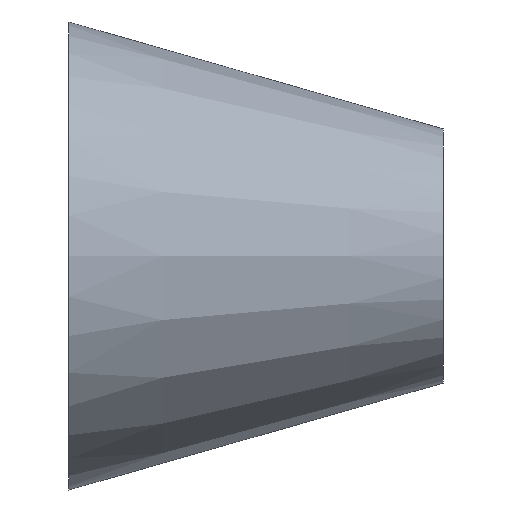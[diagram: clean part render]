
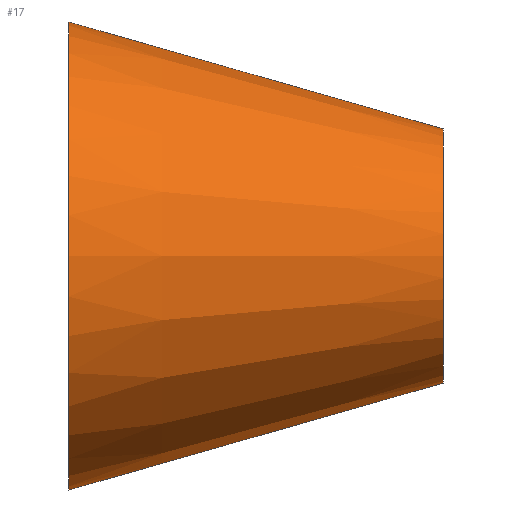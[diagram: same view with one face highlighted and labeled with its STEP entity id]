
A CAD part, front view. The second image highlights one B-rep face of the part: STEP entity #17.
In plain terms, the highlighted conical face has half-angle 15.945 degrees and reference radius 17.5 mm.
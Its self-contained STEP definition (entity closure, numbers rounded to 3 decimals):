
#17 = ADVANCED_FACE('',(#18),#31,.T.);
#18 = FACE_BOUND('',#19,.T.);
#19 = EDGE_LOOP('',(#20,#54,#74,#101));
#20 = ORIENTED_EDGE('',*,*,#21,.T.);
#21 = EDGE_CURVE('',#22,#22,#24,.T.);
#22 = VERTEX_POINT('',#23);
#23 = CARTESIAN_POINT('',(0.,17.5,0.));
#24 = SURFACE_CURVE('',#25,(#30,#42),.PCURVE_S1.);
#25 = CIRCLE('',#26,17.5);
#26 = AXIS2_PLACEMENT_3D('',#27,#28,#29);
#27 = CARTESIAN_POINT('',(0.,0.,0.));
#28 = DIRECTION('',(1.,0.,0.));
#29 = DIRECTION('',(0.,1.,0.));
#30 = PCURVE('',#31,#36);
#31 = CONICAL_SURFACE('',#32,17.5,0.278);
#32 = AXIS2_PLACEMENT_3D('',#33,#34,#35);
#33 = CARTESIAN_POINT('',(0.,0.,0.));
#34 = DIRECTION('',(-1.,-0.,-0.));
#35 = DIRECTION('',(0.,1.,0.));
#36 = DEFINITIONAL_REPRESENTATION('',(#37),#41);
#37 = LINE('',#38,#39);
#38 = CARTESIAN_POINT('',(-0.,-0.));
#39 = VECTOR('',#40,1.);
#40 = DIRECTION('',(-1.,-0.));
#41 = ( GEOMETRIC_REPRESENTATION_CONTEXT(2) 
PARAMETRIC_REPRESENTATION_CONTEXT() REPRESENTATION_CONTEXT('2D SPACE',''
  ) );
#42 = PCURVE('',#43,#48);
#43 = PLANE('',#44);
#44 = AXIS2_PLACEMENT_3D('',#45,#46,#47);
#45 = CARTESIAN_POINT('',(0.,0.,0.));
#46 = DIRECTION('',(1.,0.,0.));
#47 = DIRECTION('',(0.,1.,0.));
#48 = DEFINITIONAL_REPRESENTATION('',(#49),#53);
#49 = CIRCLE('',#50,17.5);
#50 = AXIS2_PLACEMENT_2D('',#51,#52);
#51 = CARTESIAN_POINT('',(0.,0.));
#52 = DIRECTION('',(1.,0.));
#53 = ( GEOMETRIC_REPRESENTATION_CONTEXT(2) 
PARAMETRIC_REPRESENTATION_CONTEXT() REPRESENTATION_CONTEXT('2D SPACE',''
  ) );
#54 = ORIENTED_EDGE('',*,*,#55,.T.);
#55 = EDGE_CURVE('',#22,#56,#58,.T.);
#56 = VERTEX_POINT('',#57);
#57 = CARTESIAN_POINT('',(28.,9.5,0.));
#58 = SEAM_CURVE('',#59,(#62,#68),.PCURVE_S1.);
#59 = B_SPLINE_CURVE_WITH_KNOTS('',1,(#60,#61),.UNSPECIFIED.,.F.,.F.,(2,
    2),(0.,1.),.PIECEWISE_BEZIER_KNOTS.);
#60 = CARTESIAN_POINT('',(0.,17.5,0.));
#61 = CARTESIAN_POINT('',(28.,9.5,0.));
#62 = PCURVE('',#31,#63);
#63 = DEFINITIONAL_REPRESENTATION('',(#64),#67);
#64 = B_SPLINE_CURVE_WITH_KNOTS('',1,(#65,#66),.UNSPECIFIED.,.F.,.F.,(2,
    2),(0.,1.),.PIECEWISE_BEZIER_KNOTS.);
#65 = CARTESIAN_POINT('',(-6.283,0.));
#66 = CARTESIAN_POINT('',(-6.283,-28.));
#67 = ( GEOMETRIC_REPRESENTATION_CONTEXT(2) 
PARAMETRIC_REPRESENTATION_CONTEXT() REPRESENTATION_CONTEXT('2D SPACE',''
  ) );
#68 = PCURVE('',#31,#69);
#69 = DEFINITIONAL_REPRESENTATION('',(#70),#73);
#70 = B_SPLINE_CURVE_WITH_KNOTS('',1,(#71,#72),.UNSPECIFIED.,.F.,.F.,(2,
    2),(0.,1.),.PIECEWISE_BEZIER_KNOTS.);
#71 = CARTESIAN_POINT('',(0.,0.));
#72 = CARTESIAN_POINT('',(0.,-28.));
#73 = ( GEOMETRIC_REPRESENTATION_CONTEXT(2) 
PARAMETRIC_REPRESENTATION_CONTEXT() REPRESENTATION_CONTEXT('2D SPACE',''
  ) );
#74 = ORIENTED_EDGE('',*,*,#75,.F.);
#75 = EDGE_CURVE('',#56,#56,#76,.T.);
#76 = SURFACE_CURVE('',#77,(#82,#89),.PCURVE_S1.);
#77 = CIRCLE('',#78,9.5);
#78 = AXIS2_PLACEMENT_3D('',#79,#80,#81);
#79 = CARTESIAN_POINT('',(28.,0.,0.));
#80 = DIRECTION('',(1.,0.,0.));
#81 = DIRECTION('',(0.,1.,0.));
#82 = PCURVE('',#31,#83);
#83 = DEFINITIONAL_REPRESENTATION('',(#84),#88);
#84 = LINE('',#85,#86);
#85 = CARTESIAN_POINT('',(-0.,-28.));
#86 = VECTOR('',#87,1.);
#87 = DIRECTION('',(-1.,-0.));
#88 = ( GEOMETRIC_REPRESENTATION_CONTEXT(2) 
PARAMETRIC_REPRESENTATION_CONTEXT() REPRESENTATION_CONTEXT('2D SPACE',''
  ) );
#89 = PCURVE('',#90,#95);
#90 = PLANE('',#91);
#91 = AXIS2_PLACEMENT_3D('',#92,#93,#94);
#92 = CARTESIAN_POINT('',(28.,0.,0.));
#93 = DIRECTION('',(1.,0.,0.));
#94 = DIRECTION('',(0.,1.,0.));
#95 = DEFINITIONAL_REPRESENTATION('',(#96),#100);
#96 = CIRCLE('',#97,9.5);
#97 = AXIS2_PLACEMENT_2D('',#98,#99);
#98 = CARTESIAN_POINT('',(0.,0.));
#99 = DIRECTION('',(1.,0.));
#100 = ( GEOMETRIC_REPRESENTATION_CONTEXT(2) 
PARAMETRIC_REPRESENTATION_CONTEXT() REPRESENTATION_CONTEXT('2D SPACE',''
  ) );
#101 = ORIENTED_EDGE('',*,*,#55,.F.);
